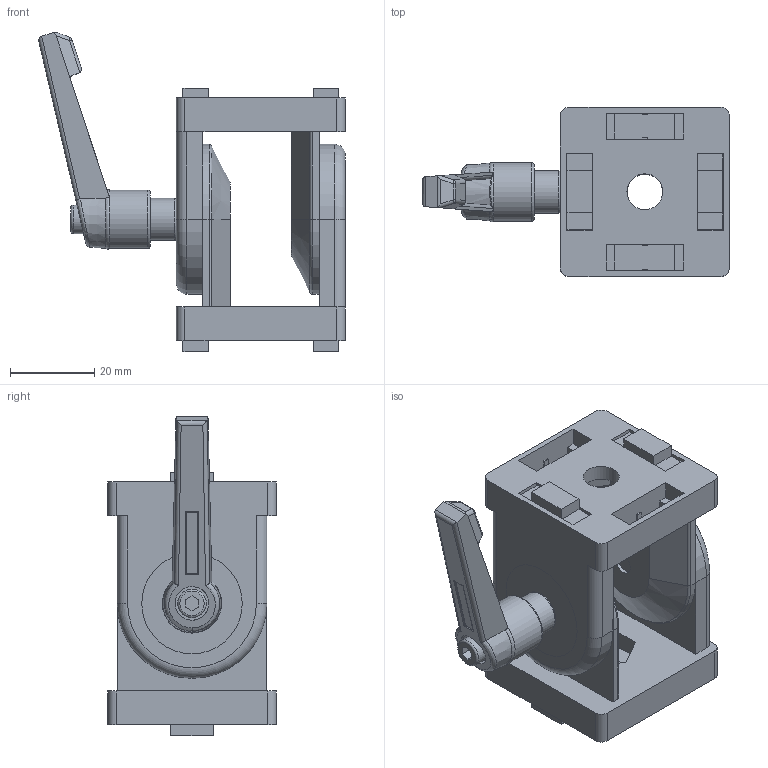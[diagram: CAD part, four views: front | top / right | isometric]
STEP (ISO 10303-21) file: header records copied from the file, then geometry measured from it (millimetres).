
FILE_DESCRIPTION(/* description */ (''),/* implementation_level */ '2;1');
FILE_NAME(/* name */ 'Pivot Joint - 40 Series - With Adjustable Handle.step',/* time_stamp */ '2025-09-03T19:16:06+03:00',/* author */ (''),/* organization */ (''),/* preprocessor_version */ 'ST-DEVELOPER v20.1',/* originating_system */ 'Autodesk Translation Framework v14.10.0.0',/* authorisation */ '');
FILE_SCHEMA (('AUTOMOTIVE_DESIGN { 1 0 10303 214 3 1 1 }'));
Length unit declared in the file: millimetre
Products named in the file (11): Pivot Joint - 40 Series - With Adjustable Handle; Component7; Component4; Component2; Component6; Component7(Mirror); Component3; DIN 7991 - M6x12 Steel 4.6 Plain; M6 x 25mm Adjustable Clamping Handle Lever; Component13; Component7(Mirror) (1)
Assembly tree (12 placements, depth 2):
  Pivot Joint - 40 Series - With Adjustable Handle
    Component7
    Component2  x2
    Component3  x2
    Component4
    Component6
    Component7(Mirror)
    DIN 7991 - M6x12 Steel 4.6 Plain
    M6 x 25mm Adjustable Clamping Handle Lever
    Component13
    Component7(Mirror) (1)
Bounding box: 72.62 x 40 x 75.66 mm (x, y, z)
Volume: 51914.6 mm3; surface area: 33531.1 mm2
Topology: 12 solids, 13 shells, 505 faces, 1286 edges, 840 vertices
Faces by surface type: plane 353, cylinder 120, bspline 12, torus 10, cone 6, sphere 4
Full cylindrical faces by diameter (mm): 1.9 x8, 4.75 x1, 4.917 x10, 5.035 x2, 5.884 x1, 6 x12, 6.75 x1, 8 x1, 8.5 x2, 10 x1, 10.5 x1, 12 x1, 13.8 x1, 15.75 x4, 23.8 x4, 25.9 x4
Entity records: 14645 total; most frequent: CARTESIAN_POINT 5574, ORIENTED_EDGE 1846, DIRECTION 1761, EDGE_CURVE 923, LINE 649, VECTOR 649, VERTEX_POINT 600, AXIS2_PLACEMENT_3D 556
